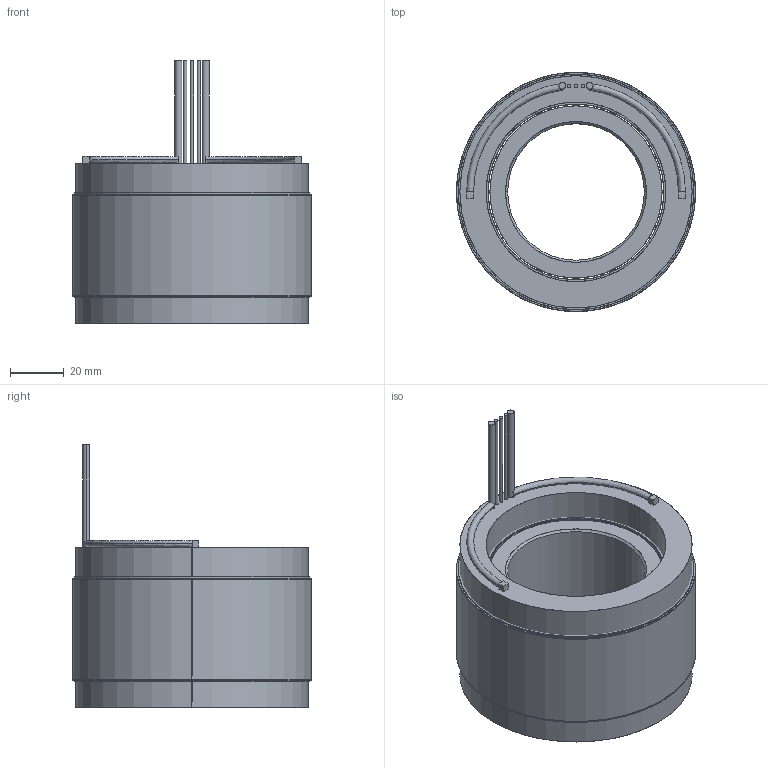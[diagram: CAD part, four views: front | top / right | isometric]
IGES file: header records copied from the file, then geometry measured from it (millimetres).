
Start section: SolidWorks IGES file using analytic representation for surfaces
Global section: file name: \\fs01.aveox.local\user documents\eng\My Documents\STANDARD STATOR ROTOR SETS\Standard rotor and stator set released\NEW DIRECT DRIVE MOTOR\3.5 OD 18S16P\6100378-02.IGS; native system: SolidWorks 2016; preprocessor: SolidWorks 2016; author: eng; date: 200623.085950; units: inch
Bounding box: 88.9 x 88.9 x 97.54 mm (x, y, z)
Surface area: 98198.3 mm2 (no closed solid volume)
Topology: 0 solids, 0 shells, 81 faces, 2376 edges, 2376 vertices
Faces by surface type: revolution 42, bspline 39
